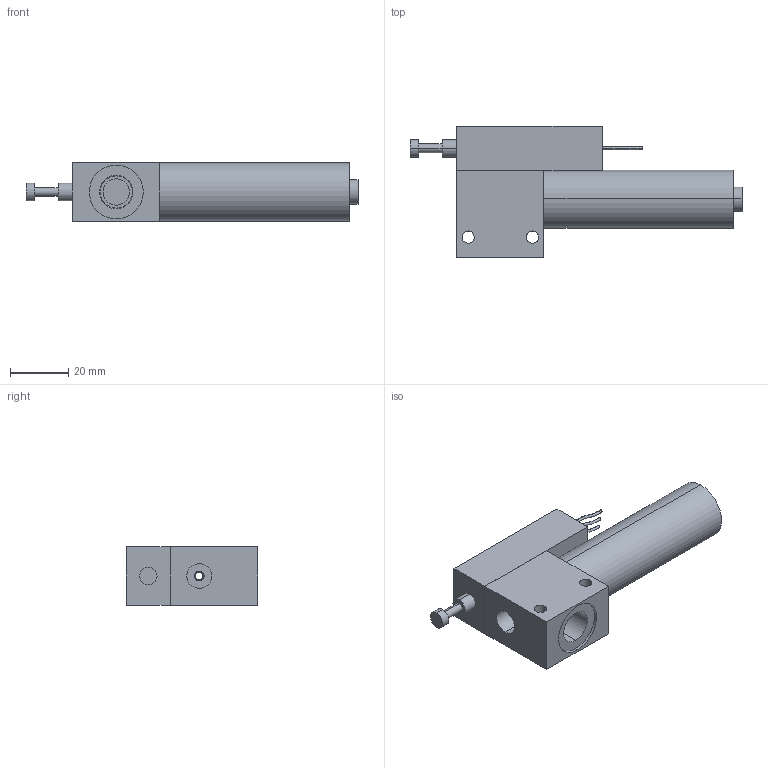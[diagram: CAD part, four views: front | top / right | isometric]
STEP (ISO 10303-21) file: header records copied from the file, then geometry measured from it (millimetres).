
FILE_DESCRIPTION (( 'STEP AP214' ), '1' );
FILE_NAME ('2EJMV8006000.STEP', '2016-09-15T07:13:13', ( '' ), ( '' ), 'SwSTEP 2.0', 'SolidWorks 2010', '' );
FILE_SCHEMA (( 'AUTOMOTIVE_DESIGN' ));
Length unit declared in the file: millimetre
Products named in the file (10): S0717E01_Montage; 9VE3J0E0012; FILTRES TAMIS_F70.60234.200; 100357; Vis sans tete 6 pans creux a bout plat_Vis sans tête 6 pans creux à bout plat M  2,5 Lg:5; S095102_2EJMV8000COR00; S0861F02_S095110; 100353; S0716F03_9BS105005; 2EJMV8006000
Assembly tree (13 placements, depth 3):
  2EJMV8006000
    FILTRES TAMIS_F70.60234.200
    9VE3J0E0012
    S0717E01_Montage
      100353
      S0716F03_9BS105005  x5
      100357
    S095102_2EJMV8000COR00
    Vis sans tete 6 pans creux a bout plat_Vis sans tête 6 pans creux à bout plat M  2,5 Lg:5
    S0861F02_S095110
Bounding box: 114 x 45 x 20 mm (x, y, z)
Volume: 48483.6 mm3; surface area: 26480.8 mm2
Topology: 12 solids, 12 shells, 176 faces, 384 edges, 244 vertices
Faces by surface type: cylinder 90, plane 54, cone 24, bspline 6, torus 2
Entity records: 5842 total; most frequent: CARTESIAN_POINT 1248, DIRECTION 820, ORIENTED_EDGE 660, AXIS2_PLACEMENT_3D 342, EDGE_CURVE 330, VERTEX_POINT 212, EDGE_LOOP 192, CIRCLE 179
